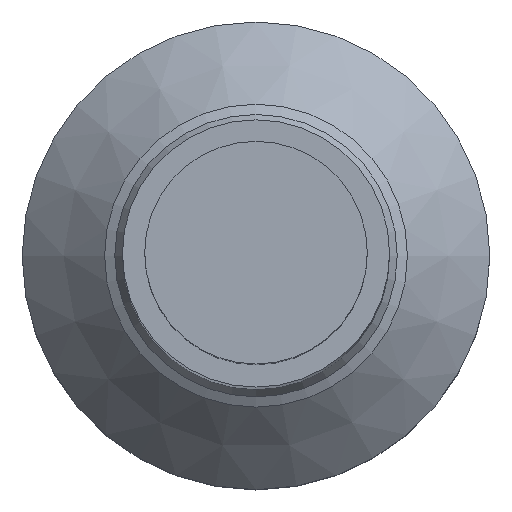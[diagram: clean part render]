
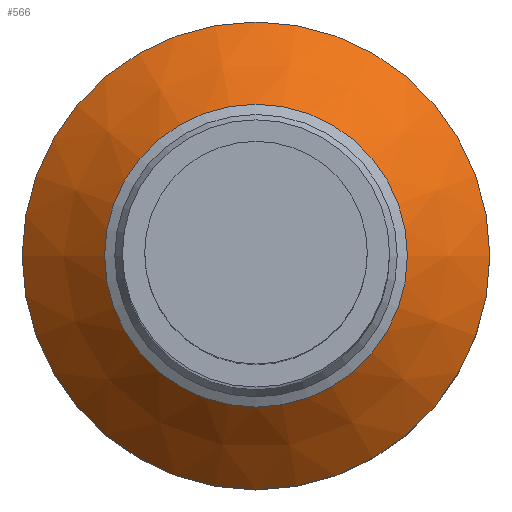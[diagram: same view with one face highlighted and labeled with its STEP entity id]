
A CAD part, top view. The second image highlights one B-rep face of the part: STEP entity #566.
In plain terms, the highlighted conical face has half-angle 45 degrees and reference radius 5.25 mm.
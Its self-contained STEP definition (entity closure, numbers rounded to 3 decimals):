
#43 = CYLINDRICAL_SURFACE('',#44,5.25);
#44 = AXIS2_PLACEMENT_3D('',#45,#46,#47);
#45 = CARTESIAN_POINT('',(0.,0.,0.));
#46 = DIRECTION('',(0.,0.,1.));
#47 = DIRECTION('',(1.,0.,-0.));
#218 = VERTEX_POINT('',#219);
#219 = CARTESIAN_POINT('',(5.25,0.,4.5));
#240 = EDGE_CURVE('',#218,#218,#241,.T.);
#241 = SURFACE_CURVE('',#242,(#247,#254),.PCURVE_S1.);
#242 = CIRCLE('',#243,5.25);
#243 = AXIS2_PLACEMENT_3D('',#244,#245,#246);
#244 = CARTESIAN_POINT('',(0.,0.,4.5));
#245 = DIRECTION('',(0.,0.,1.));
#246 = DIRECTION('',(1.,0.,-0.));
#247 = PCURVE('',#43,#248);
#248 = DEFINITIONAL_REPRESENTATION('',(#249),#253);
#249 = LINE('',#250,#251);
#250 = CARTESIAN_POINT('',(0.,4.5));
#251 = VECTOR('',#252,1.);
#252 = DIRECTION('',(1.,0.));
#253 = ( GEOMETRIC_REPRESENTATION_CONTEXT(2) 
PARAMETRIC_REPRESENTATION_CONTEXT() REPRESENTATION_CONTEXT('2D SPACE',''
  ) );
#254 = PCURVE('',#255,#260);
#255 = CONICAL_SURFACE('',#256,5.25,0.785);
#256 = AXIS2_PLACEMENT_3D('',#257,#258,#259);
#257 = CARTESIAN_POINT('',(0.,0.,4.5));
#258 = DIRECTION('',(-0.,-0.,-1.));
#259 = DIRECTION('',(1.,0.,-0.));
#260 = DEFINITIONAL_REPRESENTATION('',(#261),#265);
#261 = LINE('',#262,#263);
#262 = CARTESIAN_POINT('',(-0.,-0.));
#263 = VECTOR('',#264,1.);
#264 = DIRECTION('',(-1.,-0.));
#265 = ( GEOMETRIC_REPRESENTATION_CONTEXT(2) 
PARAMETRIC_REPRESENTATION_CONTEXT() REPRESENTATION_CONTEXT('2D SPACE',''
  ) );
#566 = ADVANCED_FACE('',(#567),#255,.T.);
#567 = FACE_BOUND('',#568,.T.);
#568 = EDGE_LOOP('',(#569,#570,#593,#620));
#569 = ORIENTED_EDGE('',*,*,#240,.T.);
#570 = ORIENTED_EDGE('',*,*,#571,.T.);
#571 = EDGE_CURVE('',#218,#572,#574,.T.);
#572 = VERTEX_POINT('',#573);
#573 = CARTESIAN_POINT('',(3.4,0.,6.35));
#574 = SEAM_CURVE('',#575,(#579,#586),.PCURVE_S1.);
#575 = LINE('',#576,#577);
#576 = CARTESIAN_POINT('',(5.25,0.,4.5));
#577 = VECTOR('',#578,1.);
#578 = DIRECTION('',(-0.707,0.,0.707));
#579 = PCURVE('',#255,#580);
#580 = DEFINITIONAL_REPRESENTATION('',(#581),#585);
#581 = LINE('',#582,#583);
#582 = CARTESIAN_POINT('',(-0.,-0.));
#583 = VECTOR('',#584,1.);
#584 = DIRECTION('',(-0.,-1.));
#585 = ( GEOMETRIC_REPRESENTATION_CONTEXT(2) 
PARAMETRIC_REPRESENTATION_CONTEXT() REPRESENTATION_CONTEXT('2D SPACE',''
  ) );
#586 = PCURVE('',#255,#587);
#587 = DEFINITIONAL_REPRESENTATION('',(#588),#592);
#588 = LINE('',#589,#590);
#589 = CARTESIAN_POINT('',(-6.283,-0.));
#590 = VECTOR('',#591,1.);
#591 = DIRECTION('',(-0.,-1.));
#592 = ( GEOMETRIC_REPRESENTATION_CONTEXT(2) 
PARAMETRIC_REPRESENTATION_CONTEXT() REPRESENTATION_CONTEXT('2D SPACE',''
  ) );
#593 = ORIENTED_EDGE('',*,*,#594,.F.);
#594 = EDGE_CURVE('',#572,#572,#595,.T.);
#595 = SURFACE_CURVE('',#596,(#601,#608),.PCURVE_S1.);
#596 = CIRCLE('',#597,3.4);
#597 = AXIS2_PLACEMENT_3D('',#598,#599,#600);
#598 = CARTESIAN_POINT('',(0.,0.,6.35));
#599 = DIRECTION('',(0.,0.,1.));
#600 = DIRECTION('',(1.,0.,-0.));
#601 = PCURVE('',#255,#602);
#602 = DEFINITIONAL_REPRESENTATION('',(#603),#607);
#603 = LINE('',#604,#605);
#604 = CARTESIAN_POINT('',(-0.,-1.85));
#605 = VECTOR('',#606,1.);
#606 = DIRECTION('',(-1.,-0.));
#607 = ( GEOMETRIC_REPRESENTATION_CONTEXT(2) 
PARAMETRIC_REPRESENTATION_CONTEXT() REPRESENTATION_CONTEXT('2D SPACE',''
  ) );
#608 = PCURVE('',#609,#614);
#609 = CONICAL_SURFACE('',#610,3.4,1.056);
#610 = AXIS2_PLACEMENT_3D('',#611,#612,#613);
#611 = CARTESIAN_POINT('',(0.,0.,6.35));
#612 = DIRECTION('',(-0.,-0.,-1.));
#613 = DIRECTION('',(1.,0.,-0.));
#614 = DEFINITIONAL_REPRESENTATION('',(#615),#619);
#615 = LINE('',#616,#617);
#616 = CARTESIAN_POINT('',(-0.,-0.));
#617 = VECTOR('',#618,1.);
#618 = DIRECTION('',(-1.,-0.));
#619 = ( GEOMETRIC_REPRESENTATION_CONTEXT(2) 
PARAMETRIC_REPRESENTATION_CONTEXT() REPRESENTATION_CONTEXT('2D SPACE',''
  ) );
#620 = ORIENTED_EDGE('',*,*,#571,.F.);
